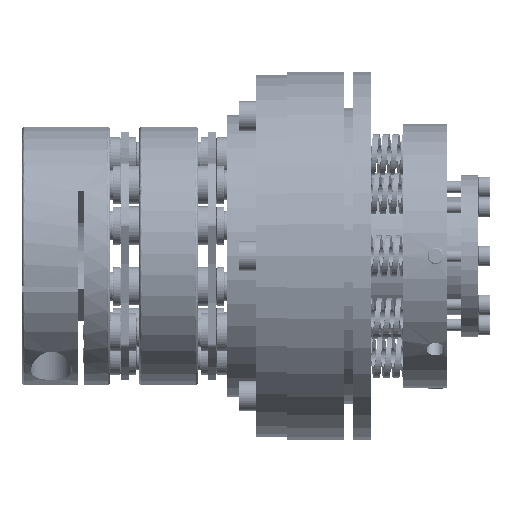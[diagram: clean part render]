
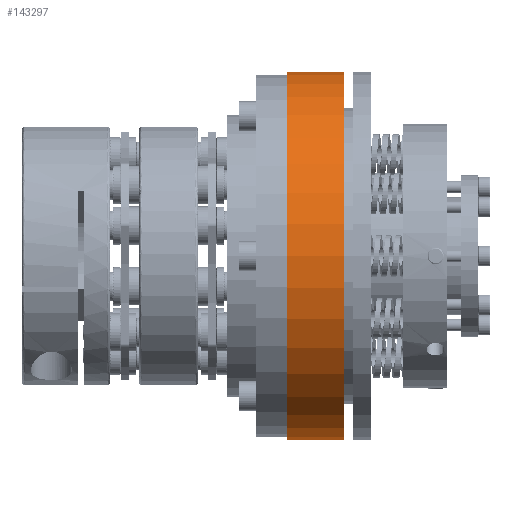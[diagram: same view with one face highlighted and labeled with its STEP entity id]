
A CAD part, front view. The second image highlights one B-rep face of the part: STEP entity #143297.
In plain terms, the highlighted cylindrical face has radius 62.5 mm (diameter 125 mm), a partial arc.
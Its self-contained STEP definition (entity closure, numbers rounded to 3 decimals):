
#1428 = ORIENTED_EDGE ( 'NONE', *, *, #8879, .F. ) ;
#5544 = DIRECTION ( 'NONE',  ( 0., 0., 1. ) ) ;
#8414 = EDGE_LOOP ( 'NONE', ( #69073, #14295, #87722, #1428 ) ) ;
#8879 = EDGE_CURVE ( 'NONE', #129698, #75440, #23283, .T. ) ;
#13117 = CARTESIAN_POINT ( 'NONE',  ( -35.1, 0., 0. ) ) ;
#14295 = ORIENTED_EDGE ( 'NONE', *, *, #130252, .T. ) ;
#16267 = LINE ( 'NONE', #80145, #79706 ) ;
#16698 = CARTESIAN_POINT ( 'NONE',  ( -54.6, 0., 0. ) ) ;
#17553 = EDGE_CURVE ( 'NONE', #110101, #129698, #82499, .T. ) ;
#23272 = CARTESIAN_POINT ( 'NONE',  ( -54.6, 0., -62.5 ) ) ;
#23283 = CIRCLE ( 'NONE', #62961, 62.5 ) ;
#23566 = CARTESIAN_POINT ( 'NONE',  ( -35.1, 0., 62.5 ) ) ;
#25797 = DIRECTION ( 'NONE',  ( -1., 0., 0. ) ) ;
#46238 = AXIS2_PLACEMENT_3D ( 'NONE', #62969, #98837, #74533 ) ;
#62961 = AXIS2_PLACEMENT_3D ( 'NONE', #16698, #74941, #5544 ) ;
#62969 = CARTESIAN_POINT ( 'NONE',  ( -75.1, 0., 0. ) ) ;
#68369 = CYLINDRICAL_SURFACE ( 'NONE', #46238, 62.5 ) ;
#69073 = ORIENTED_EDGE ( 'NONE', *, *, #17553, .F. ) ;
#74533 = DIRECTION ( 'NONE',  ( 0., 0., 1. ) ) ;
#74941 = DIRECTION ( 'NONE',  ( -1., 0., 0. ) ) ;
#75440 = VERTEX_POINT ( 'NONE', #115371 ) ;
#79706 = VECTOR ( 'NONE', #137357, 1000. ) ;
#80145 = CARTESIAN_POINT ( 'NONE',  ( -75.1, 0., 62.5 ) ) ;
#82499 = LINE ( 'NONE', #126925, #87872 ) ;
#87722 = ORIENTED_EDGE ( 'NONE', *, *, #134001, .T. ) ;
#87872 = VECTOR ( 'NONE', #149740, 1000. ) ;
#98837 = DIRECTION ( 'NONE',  ( -1., 0., 0. ) ) ;
#110101 = VERTEX_POINT ( 'NONE', #135986 ) ;
#115371 = CARTESIAN_POINT ( 'NONE',  ( -54.6, 0., 62.5 ) ) ;
#121950 = VERTEX_POINT ( 'NONE', #23566 ) ;
#124472 = FACE_OUTER_BOUND ( 'NONE', #8414, .T. ) ;
#126925 = CARTESIAN_POINT ( 'NONE',  ( -75.1, 0., -62.5 ) ) ;
#129698 = VERTEX_POINT ( 'NONE', #23272 ) ;
#130252 = EDGE_CURVE ( 'NONE', #110101, #121950, #144517, .T. ) ;
#130569 = DIRECTION ( 'NONE',  ( 0., 0., 1. ) ) ;
#134001 = EDGE_CURVE ( 'NONE', #121950, #75440, #16267, .T. ) ;
#135986 = CARTESIAN_POINT ( 'NONE',  ( -35.1, 0., -62.5 ) ) ;
#136106 = AXIS2_PLACEMENT_3D ( 'NONE', #13117, #25797, #130569 ) ;
#137357 = DIRECTION ( 'NONE',  ( -1., 0., 0. ) ) ;
#143297 = ADVANCED_FACE ( 'NONE', ( #124472 ), #68369, .T. ) ;
#144517 = CIRCLE ( 'NONE', #136106, 62.5 ) ;
#149740 = DIRECTION ( 'NONE',  ( -1., 0., 0. ) ) ;
